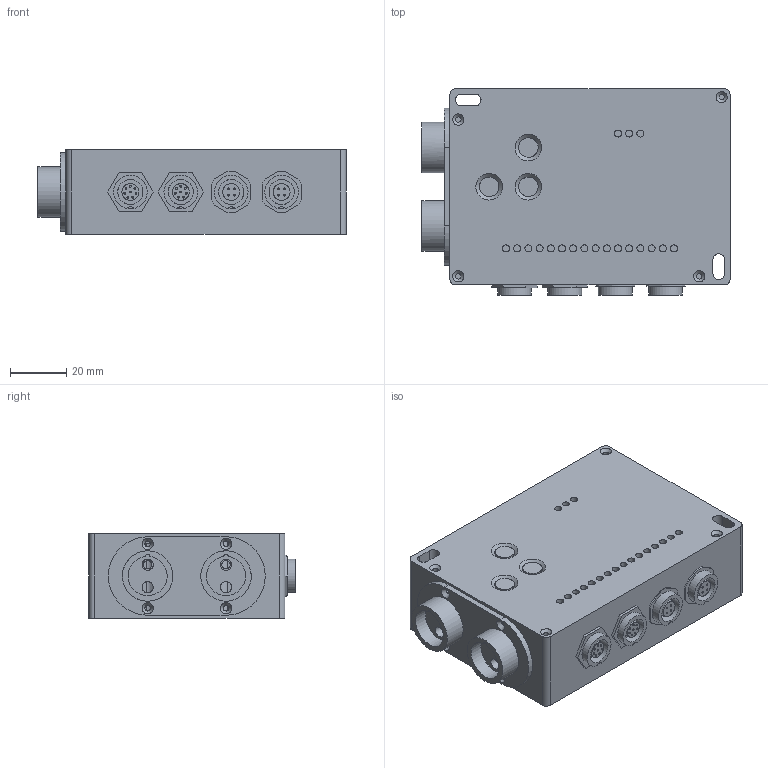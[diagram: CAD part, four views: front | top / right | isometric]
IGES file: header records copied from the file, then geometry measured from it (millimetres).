
Global section: file name: CR200.igs; native system: CAD Exchanger 2.2.1; preprocessor: CAD Exchanger 2.2.1 (www.cadexchanger.com); author: ges; date: 20110516.132519; units: millimetre
Bounding box: 110 x 73.7 x 30 mm (x, y, z)
Surface area: 50697.4 mm2 (no closed solid volume)
Topology: 0 solids, 0 shells, 359 faces, 1676 edges, 1506 vertices
Faces by surface type: revolution 195, bspline 164
